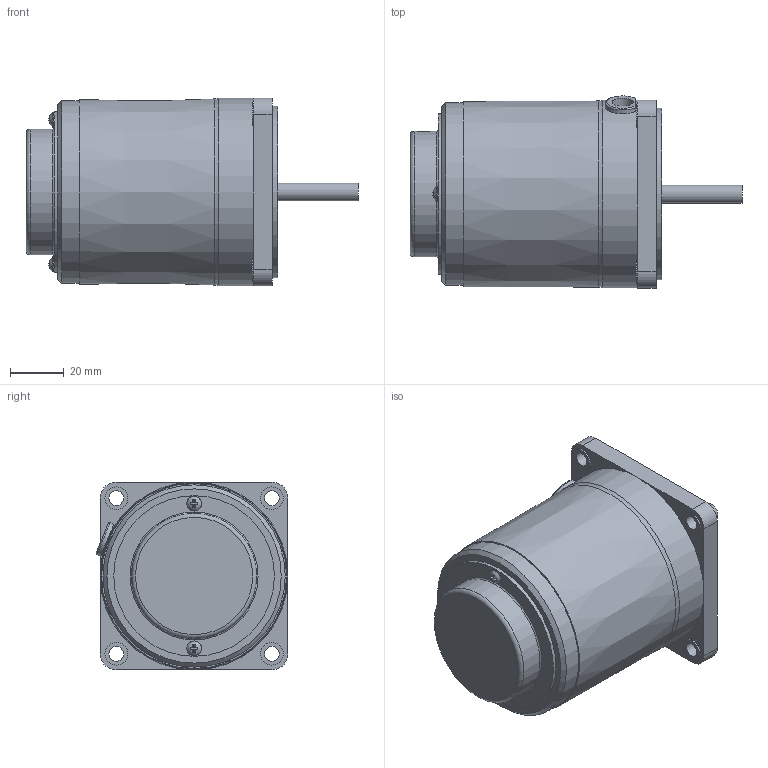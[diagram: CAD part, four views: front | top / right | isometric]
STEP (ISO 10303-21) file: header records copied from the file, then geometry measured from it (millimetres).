
FILE_DESCRIPTION((''),'2;1');
FILE_NAME('D:\STP파일\15W MOTOR\SPEED CONTROL TYPE\S7R15S-S.stp','2013-05-20T16:26:18',('leebh'),(''),'Autodesk Inventor 2011','Autodesk Inventor 2011','');
FILE_SCHEMA(('AUTOMOTIVE_DESIGN { 1 0 10303 214 1 1 1 1 }'));
Length unit declared in the file: millimetre
Products named in the file (1): 부품2
Bounding box: 123.8 x 71.56 x 70 mm (x, y, z)
Volume: 327350.3 mm3; surface area: 33347.2 mm2
Topology: 1 solids, 6 shells, 141 faces, 325 edges, 211 vertices
Faces by surface type: plane 85, cylinder 43, torus 9, bspline 2, cone 2
Full cylindrical faces by diameter (mm): 3 x2, 3.5 x2, 5 x1, 5.5 x4, 5.6 x2, 6.7 x1, 8 x1, 8.5 x4, 10 x1, 28 x1, 44.7 x1, 46.7 x1, 47.7 x1, 59.9 x1, 64 x1, 68 x1, 70 x1
Entity records: 4090 total; most frequent: CARTESIAN_POINT 964, DIRECTION 626, ORIENTED_EDGE 560, EDGE_CURVE 280, AXIS2_PLACEMENT_3D 238, EDGE_LOOP 211, VERTEX_POINT 205, VECTOR 150
